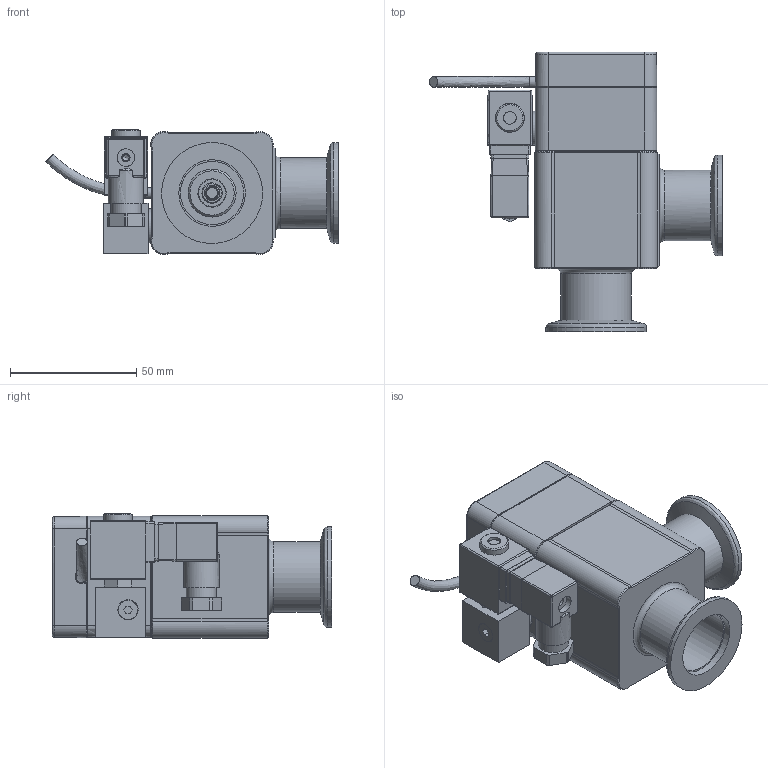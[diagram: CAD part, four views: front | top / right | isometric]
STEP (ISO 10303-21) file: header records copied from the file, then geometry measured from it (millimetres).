
FILE_DESCRIPTION((''),'2;1');
FILE_NAME('C:\TEMP\IDEAS\240257.stp','2006-09-19T15:48:09',('User'),( 'SDRC'),'I-DEAS Master Series 9','UNIX','Yes');
FILE_SCHEMA(('CONFIG_CONTROL_DESIGN'));
Length unit declared in the file: millimetre
Assembly tree (15 placements, depth 0):
Bounding box: 115.88 x 110.6 x 49.4 mm (x, y, z)
Volume: 126329.5 mm3; surface area: 74530.8 mm2
Topology: 21 solids, 23 shells, 740 faces, 1754 edges, 1129 vertices
Faces by surface type: bspline 740
Entity records: 23082 total; most frequent: CARTESIAN_POINT 11967, ORIENTED_EDGE 3146, EDGE_CURVE 1573, VERTEX_POINT 1002, EDGE_LOOP 769, FACE_OUTER_BOUND 665, ADVANCED_FACE 665, QUASI_UNIFORM_CURVE 586
